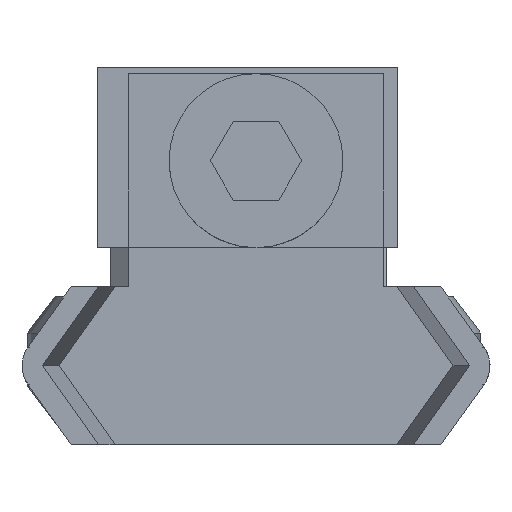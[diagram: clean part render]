
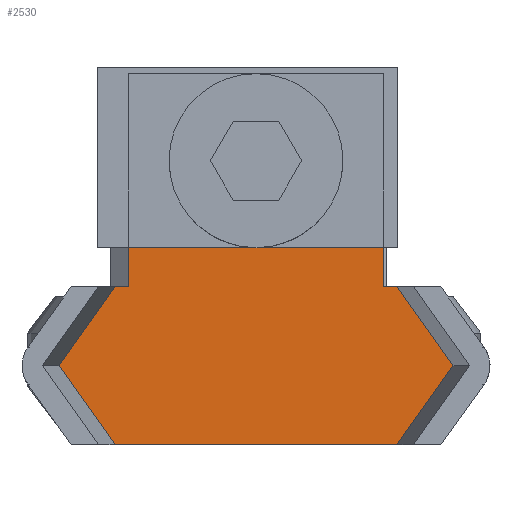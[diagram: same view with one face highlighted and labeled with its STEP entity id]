
A CAD part, left-side view. The second image highlights one B-rep face of the part: STEP entity #2530.
In plain terms, the highlighted planar face has unit normal (-1, 0, 0).
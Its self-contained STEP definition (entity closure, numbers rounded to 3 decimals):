
#108 = EDGE_CURVE ( 'NONE', #508, #2124, #510, .T. ) ;
#156 = CARTESIAN_POINT ( 'NONE',  ( 3., 1.25, 0. ) ) ;
#183 = FACE_OUTER_BOUND ( 'NONE', #2521, .T. ) ;
#310 = DIRECTION ( 'NONE',  ( 0., 0.815, 0.579 ) ) ;
#422 = VECTOR ( 'NONE', #5628, 1000. ) ;
#490 = CARTESIAN_POINT ( 'NONE',  ( 3., -2.5, -6.228 ) ) ;
#508 = VERTEX_POINT ( 'NONE', #4262 ) ;
#510 = LINE ( 'NONE', #156, #2440 ) ;
#519 = ORIENTED_EDGE ( 'NONE', *, *, #5951, .F. ) ;
#636 = VECTOR ( 'NONE', #5706, 1000. ) ;
#670 = ORIENTED_EDGE ( 'NONE', *, *, #5680, .T. ) ;
#721 = CARTESIAN_POINT ( 'NONE',  ( 3., -7.185, 2.897 ) ) ;
#736 = CARTESIAN_POINT ( 'NONE',  ( 3., 0., 4.451 ) ) ;
#740 = VERTEX_POINT ( 'NONE', #5664 ) ;
#907 = LINE ( 'NONE', #721, #4763 ) ;
#1123 = ORIENTED_EDGE ( 'NONE', *, *, #108, .F. ) ;
#1126 = DIRECTION ( 'NONE',  ( 0., 0.815, 0.579 ) ) ;
#1356 = CARTESIAN_POINT ( 'NONE',  ( 3., -5., 4.451 ) ) ;
#1362 = CARTESIAN_POINT ( 'NONE',  ( 3., 1.25, -4.04 ) ) ;
#1369 = VERTEX_POINT ( 'NONE', #4666 ) ;
#1470 = VECTOR ( 'NONE', #5593, 1000. ) ;
#1542 = CARTESIAN_POINT ( 'NONE',  ( 3., 1.25, 4.04 ) ) ;
#1560 = CARTESIAN_POINT ( 'NONE',  ( 3., 3.99, 0. ) ) ;
#1566 = VECTOR ( 'NONE', #1603, 1000. ) ;
#1580 = CARTESIAN_POINT ( 'NONE',  ( 3., -5., 0.665 ) ) ;
#1603 = DIRECTION ( 'NONE',  ( 0., 0., 1. ) ) ;
#1642 = EDGE_CURVE ( 'NONE', #3673, #3289, #1957, .T. ) ;
#1874 = VECTOR ( 'NONE', #5044, 1000. ) ;
#1954 = LINE ( 'NONE', #4684, #636 ) ;
#1957 = LINE ( 'NONE', #5604, #422 ) ;
#2027 = LINE ( 'NONE', #3959, #1874 ) ;
#2044 = EDGE_CURVE ( 'NONE', #1369, #3310, #2419, .T. ) ;
#2095 = DIRECTION ( 'NONE',  ( 0., 0., 1. ) ) ;
#2124 = VERTEX_POINT ( 'NONE', #1542 ) ;
#2143 = LINE ( 'NONE', #5268, #5623 ) ;
#2210 = EDGE_CURVE ( 'NONE', #2594, #4093, #2027, .T. ) ;
#2342 = EDGE_CURVE ( 'NONE', #1369, #4710, #4032, .T. ) ;
#2419 = LINE ( 'NONE', #6373, #4804 ) ;
#2431 = EDGE_CURVE ( 'NONE', #2124, #3289, #1954, .T. ) ;
#2440 = VECTOR ( 'NONE', #4134, 1000. ) ;
#2449 = CARTESIAN_POINT ( 'NONE',  ( 3., 0., 4.04 ) ) ;
#2451 = DIRECTION ( 'NONE',  ( 0., 0.815, -0.579 ) ) ;
#2521 = EDGE_LOOP ( 'NONE', ( #519, #5520, #6165, #4133, #6163, #5620, #670, #3056, #5467, #3689, #1123, #6088 ) ) ;
#2530 = ADVANCED_FACE ( 'NONE', ( #183 ), #3761, .F. ) ;
#2580 = AXIS2_PLACEMENT_3D ( 'NONE', #1560, #3846, #2095 ) ;
#2594 = VERTEX_POINT ( 'NONE', #1362 ) ;
#2653 = CARTESIAN_POINT ( 'NONE',  ( 3., 0., -0.176 ) ) ;
#2699 = DIRECTION ( 'NONE',  ( 0., -0.815, 0.579 ) ) ;
#2813 = AXIS2_PLACEMENT_3D ( 'NONE', #5261, #5240, #5768 ) ;
#3014 = VECTOR ( 'NONE', #2699, 1000. ) ;
#3056 = ORIENTED_EDGE ( 'NONE', *, *, #3709, .F. ) ;
#3157 = CIRCLE ( 'NONE', #2580, 2.75 ) ;
#3289 = VERTEX_POINT ( 'NONE', #2449 ) ;
#3310 = VERTEX_POINT ( 'NONE', #490 ) ;
#3537 = EDGE_CURVE ( 'NONE', #4093, #3610, #6046, .T. ) ;
#3610 = VERTEX_POINT ( 'NONE', #4169 ) ;
#3673 = VERTEX_POINT ( 'NONE', #736 ) ;
#3689 = ORIENTED_EDGE ( 'NONE', *, *, #2431, .F. ) ;
#3709 = EDGE_CURVE ( 'NONE', #3673, #740, #4786, .T. ) ;
#3761 = PLANE ( 'NONE',  #2813 ) ;
#3846 = DIRECTION ( 'NONE',  ( -1., 0., 0. ) ) ;
#3959 = CARTESIAN_POINT ( 'NONE',  ( 3., 0., -4.04 ) ) ;
#4032 = LINE ( 'NONE', #1580, #1566 ) ;
#4093 = VERTEX_POINT ( 'NONE', #5572 ) ;
#4133 = ORIENTED_EDGE ( 'NONE', *, *, #6379, .F. ) ;
#4134 = DIRECTION ( 'NONE',  ( 0., 0., 1. ) ) ;
#4169 = CARTESIAN_POINT ( 'NONE',  ( 3., 0., -4.451 ) ) ;
#4203 = CARTESIAN_POINT ( 'NONE',  ( 3., -2.5, -6.228 ) ) ;
#4261 = VECTOR ( 'NONE', #310, 1000. ) ;
#4262 = CARTESIAN_POINT ( 'NONE',  ( 3., 1.25, 0.234 ) ) ;
#4608 = EDGE_CURVE ( 'NONE', #6142, #508, #3157, .T. ) ;
#4666 = CARTESIAN_POINT ( 'NONE',  ( 3., -5., -4.451 ) ) ;
#4684 = CARTESIAN_POINT ( 'NONE',  ( 3., 0., 4.04 ) ) ;
#4707 = CARTESIAN_POINT ( 'NONE',  ( 3., 0., 4.451 ) ) ;
#4710 = VERTEX_POINT ( 'NONE', #1356 ) ;
#4763 = VECTOR ( 'NONE', #1126, 1000. ) ;
#4786 = LINE ( 'NONE', #4707, #3014 ) ;
#4804 = VECTOR ( 'NONE', #2451, 1000. ) ;
#5044 = DIRECTION ( 'NONE',  ( 0., -1., 0. ) ) ;
#5058 = CARTESIAN_POINT ( 'NONE',  ( 3., 1.25, -0.234 ) ) ;
#5240 = DIRECTION ( 'NONE',  ( 1., 0., 0. ) ) ;
#5261 = CARTESIAN_POINT ( 'NONE',  ( 3., 0., 0. ) ) ;
#5268 = CARTESIAN_POINT ( 'NONE',  ( 3., 1.25, 0. ) ) ;
#5467 = ORIENTED_EDGE ( 'NONE', *, *, #1642, .T. ) ;
#5520 = ORIENTED_EDGE ( 'NONE', *, *, #2210, .T. ) ;
#5572 = CARTESIAN_POINT ( 'NONE',  ( 3., 0., -4.04 ) ) ;
#5579 = LINE ( 'NONE', #4203, #4261 ) ;
#5593 = DIRECTION ( 'NONE',  ( 0., 0., -1. ) ) ;
#5604 = CARTESIAN_POINT ( 'NONE',  ( 3., 0., -0.176 ) ) ;
#5620 = ORIENTED_EDGE ( 'NONE', *, *, #2342, .T. ) ;
#5623 = VECTOR ( 'NONE', #6347, 1000. ) ;
#5628 = DIRECTION ( 'NONE',  ( 0., 0., -1. ) ) ;
#5664 = CARTESIAN_POINT ( 'NONE',  ( 3., -2.5, 6.228 ) ) ;
#5680 = EDGE_CURVE ( 'NONE', #4710, #740, #907, .T. ) ;
#5706 = DIRECTION ( 'NONE',  ( 0., -1., 0. ) ) ;
#5768 = DIRECTION ( 'NONE',  ( 0., 0., -1. ) ) ;
#5951 = EDGE_CURVE ( 'NONE', #2594, #6142, #2143, .T. ) ;
#6046 = LINE ( 'NONE', #2653, #1470 ) ;
#6088 = ORIENTED_EDGE ( 'NONE', *, *, #4608, .F. ) ;
#6142 = VERTEX_POINT ( 'NONE', #5058 ) ;
#6163 = ORIENTED_EDGE ( 'NONE', *, *, #2044, .F. ) ;
#6165 = ORIENTED_EDGE ( 'NONE', *, *, #3537, .T. ) ;
#6347 = DIRECTION ( 'NONE',  ( 0., 0., 1. ) ) ;
#6373 = CARTESIAN_POINT ( 'NONE',  ( 3., -5., -4.451 ) ) ;
#6379 = EDGE_CURVE ( 'NONE', #3310, #3610, #5579, .T. ) ;
